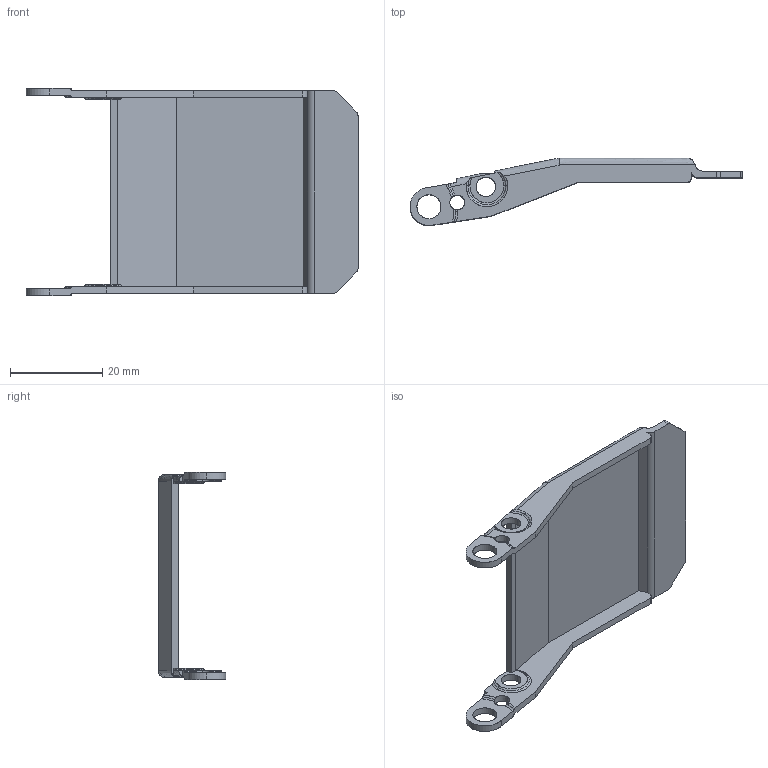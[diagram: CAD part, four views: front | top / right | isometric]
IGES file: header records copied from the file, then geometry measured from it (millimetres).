
Start section: SolidWorks IGES FILE using analytic representation for surfaces
Global section: file name: C:\Documents and Settings\lecoutey\Bureau\GE 1040\40.010.00.IGS; native system: SolidWorks 2004 by SolidWorks Corporation; preprocessor: Version 5.3; author: lecoutey; date: 050330.085543; units: millimetre
Bounding box: 71.8 x 14.6 x 44.8 mm (x, y, z)
Surface area: 6546.1 mm2 (no closed solid volume)
Topology: 0 solids, 0 shells, 121 faces, 1594 edges, 1594 vertices
Faces by surface type: bspline 89, revolution 32
